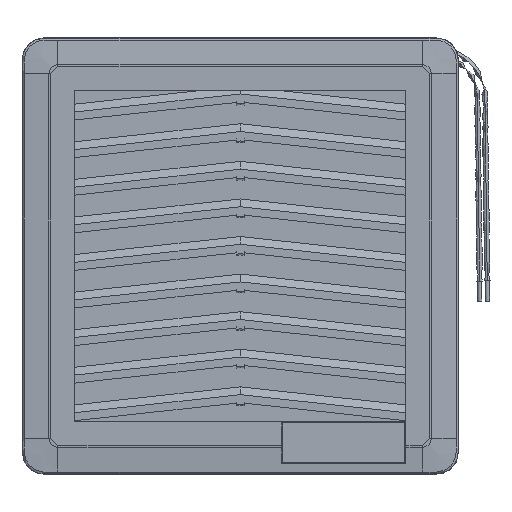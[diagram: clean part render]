
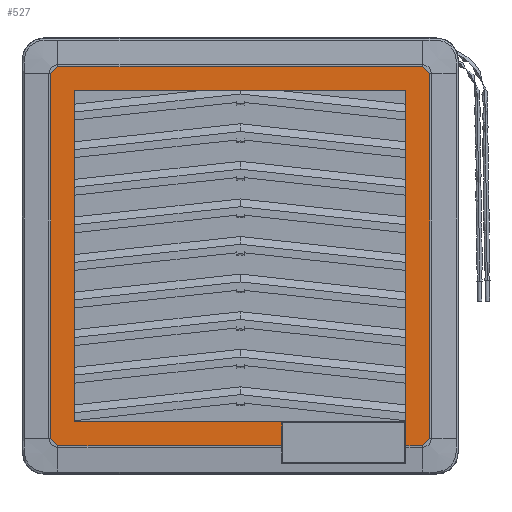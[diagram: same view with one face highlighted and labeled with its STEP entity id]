
A CAD part, top view. The second image highlights one B-rep face of the part: STEP entity #527.
In plain terms, the highlighted planar face has unit normal (0, 0, 1).
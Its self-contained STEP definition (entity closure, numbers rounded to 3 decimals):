
#527=ADVANCED_FACE('',(#971),#7672,.T.);
#971=FACE_OUTER_BOUND('',#1438,.T.);
#1438=EDGE_LOOP('',(#2796,#2797,#2798,#2799,#2800,#2801,#2802,#2803,#2804,
#2805,#2806,#2807,#2808,#2809));
#2796=ORIENTED_EDGE('',*,*,#4791,.F.);
#2797=ORIENTED_EDGE('',*,*,#4806,.F.);
#2798=ORIENTED_EDGE('',*,*,#4794,.F.);
#2799=ORIENTED_EDGE('',*,*,#4811,.F.);
#2800=ORIENTED_EDGE('',*,*,#4795,.F.);
#2801=ORIENTED_EDGE('',*,*,#4817,.F.);
#2802=ORIENTED_EDGE('',*,*,#4796,.F.);
#2803=ORIENTED_EDGE('',*,*,#4821,.F.);
#2804=ORIENTED_EDGE('',*,*,#4797,.F.);
#2805=ORIENTED_EDGE('',*,*,#4798,.F.);
#2806=ORIENTED_EDGE('',*,*,#4541,.F.);
#2807=ORIENTED_EDGE('',*,*,#4511,.F.);
#2808=ORIENTED_EDGE('',*,*,#4781,.T.);
#2809=ORIENTED_EDGE('',*,*,#4516,.T.);
#4511=EDGE_CURVE('',#6845,#6806,#5614,.T.);
#4516=EDGE_CURVE('',#6853,#6852,#5619,.T.);
#4541=EDGE_CURVE('',#6806,#6896,#5644,.T.);
#4781=EDGE_CURVE('',#6845,#6853,#5884,.T.);
#4791=EDGE_CURVE('',#7014,#6852,#5894,.T.);
#4794=EDGE_CURVE('',#7016,#7015,#5895,.T.);
#4795=EDGE_CURVE('',#7018,#7017,#5896,.T.);
#4796=EDGE_CURVE('',#7020,#7019,#5897,.T.);
#4797=EDGE_CURVE('',#7022,#7021,#5898,.T.);
#4798=EDGE_CURVE('',#6896,#7022,#5899,.T.);
#4806=EDGE_CURVE('',#7015,#7014,#6312,.T.);
#4811=EDGE_CURVE('',#7017,#7016,#6316,.T.);
#4817=EDGE_CURVE('',#7019,#7018,#6321,.T.);
#4821=EDGE_CURVE('',#7021,#7020,#6324,.T.);
#5614=B_SPLINE_CURVE_WITH_KNOTS('',1,(#14258,#14259),.UNSPECIFIED.,.F.,
 .F.,(2,2),(0.,81.),.UNSPECIFIED.);
#5619=B_SPLINE_CURVE_WITH_KNOTS('',1,(#14268,#14269),.UNSPECIFIED.,.F.,
 .F.,(2,2),(-86.775,0.),.UNSPECIFIED.);
#5644=B_SPLINE_CURVE_WITH_KNOTS('',1,(#14322,#14323),.UNSPECIFIED.,.F.,
 .F.,(2,2),(0.,50.6),.UNSPECIFIED.);
#5884=B_SPLINE_CURVE_WITH_KNOTS('',1,(#14802,#14803),.UNSPECIFIED.,.F.,
 .F.,(2,2),(-80.9,0.),.UNSPECIFIED.);
#5894=B_SPLINE_CURVE_WITH_KNOTS('',1,(#14822,#14823),.UNSPECIFIED.,.F.,
 .F.,(2,2),(0.,4.087),.UNSPECIFIED.);
#5895=B_SPLINE_CURVE_WITH_KNOTS('',1,(#14830,#14831),.UNSPECIFIED.,.F.,
 .F.,(2,2),(-89.073,0.),.UNSPECIFIED.);
#5896=B_SPLINE_CURVE_WITH_KNOTS('',1,(#14832,#14833),.UNSPECIFIED.,.F.,
 .F.,(2,2),(-89.073,0.),.UNSPECIFIED.);
#5897=B_SPLINE_CURVE_WITH_KNOTS('',1,(#14834,#14835),.UNSPECIFIED.,.F.,
 .F.,(2,2),(-89.073,0.),.UNSPECIFIED.);
#5898=B_SPLINE_CURVE_WITH_KNOTS('',1,(#14836,#14837),.UNSPECIFIED.,.F.,
 .F.,(2,2),(-54.687,0.),.UNSPECIFIED.);
#5899=B_SPLINE_CURVE_WITH_KNOTS('',1,(#14838,#14839),.UNSPECIFIED.,.F.,
 .F.,(2,2),(-5.775,0.),.UNSPECIFIED.);
#6312=(
BOUNDED_CURVE()
B_SPLINE_CURVE(2,(#14861,#14862,#14863),.UNSPECIFIED.,.F.,.F.)
B_SPLINE_CURVE_WITH_KNOTS((3,3),(0.,2.73),.UNSPECIFIED.)
CURVE()
GEOMETRIC_REPRESENTATION_ITEM()
RATIONAL_B_SPLINE_CURVE((1.,0.707,1.))
REPRESENTATION_ITEM('')
);
#6316=(
BOUNDED_CURVE()
B_SPLINE_CURVE(2,(#14875,#14876,#14877),.UNSPECIFIED.,.F.,.F.)
B_SPLINE_CURVE_WITH_KNOTS((3,3),(0.,2.73),.UNSPECIFIED.)
CURVE()
GEOMETRIC_REPRESENTATION_ITEM()
RATIONAL_B_SPLINE_CURVE((1.,0.707,1.))
REPRESENTATION_ITEM('')
);
#6321=(
BOUNDED_CURVE()
B_SPLINE_CURVE(2,(#14892,#14893,#14894),.UNSPECIFIED.,.F.,.F.)
B_SPLINE_CURVE_WITH_KNOTS((3,3),(0.,2.73),.UNSPECIFIED.)
CURVE()
GEOMETRIC_REPRESENTATION_ITEM()
RATIONAL_B_SPLINE_CURVE((1.,0.707,1.))
REPRESENTATION_ITEM('')
);
#6324=(
BOUNDED_CURVE()
B_SPLINE_CURVE(2,(#14903,#14904,#14905),.UNSPECIFIED.,.F.,.F.)
B_SPLINE_CURVE_WITH_KNOTS((3,3),(0.,2.73),.UNSPECIFIED.)
CURVE()
GEOMETRIC_REPRESENTATION_ITEM()
RATIONAL_B_SPLINE_CURVE((1.,0.707,1.))
REPRESENTATION_ITEM('')
);
#6806=VERTEX_POINT('',#13944);
#6845=VERTEX_POINT('',#13983);
#6852=VERTEX_POINT('',#13990);
#6853=VERTEX_POINT('',#13991);
#6896=VERTEX_POINT('',#14034);
#7014=VERTEX_POINT('',#14152);
#7015=VERTEX_POINT('',#14153);
#7016=VERTEX_POINT('',#14154);
#7017=VERTEX_POINT('',#14155);
#7018=VERTEX_POINT('',#14156);
#7019=VERTEX_POINT('',#14157);
#7020=VERTEX_POINT('',#14158);
#7021=VERTEX_POINT('',#14159);
#7022=VERTEX_POINT('',#14160);
#7672=PLANE('',#8147);
#8147=AXIS2_PLACEMENT_3D('',#13147,#8462,$);
#8462=DIRECTION('',(0.,0.,1.));
#13147=CARTESIAN_POINT('',(55.53,-55.53,6.5));
#13944=CARTESIAN_POINT('',(-40.45,-40.5,6.5));
#13983=CARTESIAN_POINT('',(-40.45,40.5,6.5));
#13990=CARTESIAN_POINT('',(40.45,-46.275,6.5));
#13991=CARTESIAN_POINT('',(40.45,40.5,6.5));
#14034=CARTESIAN_POINT('',(10.15,-40.5,6.5));
#14152=CARTESIAN_POINT('',(44.537,-46.275,6.5));
#14153=CARTESIAN_POINT('',(46.275,-44.537,6.5));
#14154=CARTESIAN_POINT('',(46.275,44.537,6.5));
#14155=CARTESIAN_POINT('',(44.537,46.275,6.5));
#14156=CARTESIAN_POINT('',(-44.537,46.275,6.5));
#14157=CARTESIAN_POINT('',(-46.275,44.537,6.5));
#14158=CARTESIAN_POINT('',(-46.275,-44.537,6.5));
#14159=CARTESIAN_POINT('',(-44.537,-46.275,6.5));
#14160=CARTESIAN_POINT('',(10.15,-46.275,6.5));
#14258=CARTESIAN_POINT('',(-40.45,40.5,6.5));
#14259=CARTESIAN_POINT('',(-40.45,-40.5,6.5));
#14268=CARTESIAN_POINT('',(40.45,40.5,6.5));
#14269=CARTESIAN_POINT('',(40.45,-46.275,6.5));
#14322=CARTESIAN_POINT('',(-40.45,-40.5,6.5));
#14323=CARTESIAN_POINT('',(10.15,-40.5,6.5));
#14802=CARTESIAN_POINT('',(-40.45,40.5,6.5));
#14803=CARTESIAN_POINT('',(40.45,40.5,6.5));
#14822=CARTESIAN_POINT('',(44.537,-46.275,6.5));
#14823=CARTESIAN_POINT('',(40.45,-46.275,6.5));
#14830=CARTESIAN_POINT('',(46.275,44.537,6.5));
#14831=CARTESIAN_POINT('',(46.275,-44.537,6.5));
#14832=CARTESIAN_POINT('',(-44.537,46.275,6.5));
#14833=CARTESIAN_POINT('',(44.537,46.275,6.5));
#14834=CARTESIAN_POINT('',(-46.275,-44.537,6.5));
#14835=CARTESIAN_POINT('',(-46.275,44.537,6.5));
#14836=CARTESIAN_POINT('',(10.15,-46.275,6.5));
#14837=CARTESIAN_POINT('',(-44.537,-46.275,6.5));
#14838=CARTESIAN_POINT('',(10.15,-40.5,6.5));
#14839=CARTESIAN_POINT('',(10.15,-46.275,6.5));
#14861=CARTESIAN_POINT('',(46.275,-44.537,6.5));
#14862=CARTESIAN_POINT('',(46.275,-46.275,6.5));
#14863=CARTESIAN_POINT('',(44.537,-46.275,6.5));
#14875=CARTESIAN_POINT('',(44.537,46.275,6.5));
#14876=CARTESIAN_POINT('',(46.275,46.275,6.5));
#14877=CARTESIAN_POINT('',(46.275,44.537,6.5));
#14892=CARTESIAN_POINT('',(-46.275,44.537,6.5));
#14893=CARTESIAN_POINT('',(-46.275,46.275,6.5));
#14894=CARTESIAN_POINT('',(-44.537,46.275,6.5));
#14903=CARTESIAN_POINT('',(-44.537,-46.275,6.5));
#14904=CARTESIAN_POINT('',(-46.275,-46.275,6.5));
#14905=CARTESIAN_POINT('',(-46.275,-44.537,6.5));
